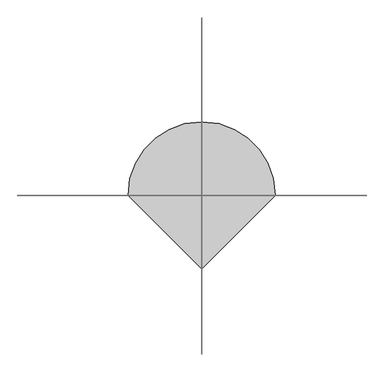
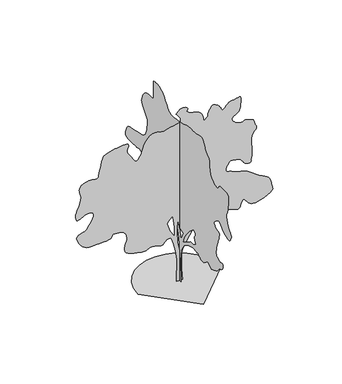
"""IFC4 building model written with IfcOpenShell, lengths in millimetres: geographic element geometry, M_RPC Árbol - Caducifolio : Saúco - 4,5 metros."""

from ifc_helpers import new_model, si_unit, origin, place, context, project, spatial, triangles, source, transform, mapped, element, save


def geographic_element_22c99d3a(model_context):
    return source(origin(), model_context, "Body", "Tessellation", [
        triangles([(-0.0014684, -58.7037978, 0.0041346), (-0.0014684, 62.498052, 0.0041346), (-0.0014684, 15.3641626, 565.6129683), (-0.0014684, 1.8971866, 909.0182064), (-0.0014684, 22.0974929, 1104.2884094), (-0.0014684, 75.9650625, 1326.4911255), (-0.0014684, 224.1009287, 1474.6287403), (-0.0014684, 378.970291, 1474.6287403), (-0.0014684, 412.6378218, 1380.3586224), (-0.0014684, 479.9703761, 1387.0936764), (-0.0014684, 554.0404552, 1474.6287403), (-0.0014684, 601.1729708, 1568.8962421), (-0.0014684, 628.1080273, 1663.1638893), (-0.0014684, 702.1755266, 1636.2313763), (-0.0014684, 782.9756092, 1629.4963223), (-0.0014684, 857.0431812, 1797.8338669), (-0.0014684, 910.9107508, 1898.833952), (-0.0014684, 1059.0483656, 1892.1015141), (-0.0014684, 1173.5159426, 1797.8338669), (-0.0014684, 1382.2535648, 1575.6288254), (-0.0014684, 1388.9861481, 1353.4261093), (-0.0014684, 1386.9236286, 1327.021035), (-0.0014684, 1382.3910564, 1295.553479), (-0.0014684, 1377.8561588, 1261.3760593), (-0.0014684, 1375.7936394, 1226.8434288), (-0.0014684, 1378.6786377, 1194.3159811), (-0.0014684, 1388.9861481, 1166.1458982), (-0.0014684, 1409.1860779, 1144.6884144), (-0.0014684, 1434.4711624, 1129.1809307), (-0.0014684, 1458.931152, 1117.9109064), (-0.0014684, 1483.3911415, 1111.8258854), (-0.0014684, 1508.676226, 1111.8658539), (-0.0014684, 1535.6112099, 1118.9734142), (-0.0014684, 1565.0162464, 1134.0884073), (-0.0014684, 1597.723843, 1158.1559063), (-0.0014684, 1638.2812511, 1183.6959171), (-0.0014684, 1688.0263252, 1202.5209309), (-0.0014684, 1742.9539318, 1214.5159836), (-0.0014684, 1799.0589375, 1219.5610245), (-0.0014684, 1852.3364994, 1217.5409443), (-0.0014684, 1898.783955, 1208.3334394), (-0.0014684, 1934.3939907, 1191.8234734), (-0.0014684, 1963.8416119, 1167.0484594), (-0.0014684, 1995.1715309, 1136.2684341), (-0.0014684, 2029.446619, 1104.1908863), (-0.0014684, 2067.729166, 1075.5283916), (-0.0014684, 2111.0741947, 1054.9958513), (-0.0014684, 2160.5442856, 1047.2983561), (-0.0014684, 2217.1992577, 1057.1533504), (-0.0014684, 2275.1493542, 1083.4008762), (-0.0014684, 2327.094294, 1119.5408941), (-0.0014684, 2371.9694618, 1162.2784018), (-0.0014684, 2408.7193989, 1208.3134552), (-0.0014684, 2436.2819607, 1254.348436), (-0.0014684, 2453.5944214, 1297.0834728), (-0.0014684, 2459.6019035, 1333.2260342), (-0.0014684, 2455.754464, 1372.7236233), (-0.0014684, 2445.3120781, 1424.1161259), (-0.0014684, 2429.919413, 1481.9887562), (-0.0014684, 2411.2318909, 1540.9212055), (-0.0014684, 2390.8944695, 1595.4962173), (-0.0014684, 2370.5569027, 1640.2937737), (-0.0014684, 2351.8669098, 1669.8963272), (-0.0014684, 2330.1568977, 1694.4363991), (-0.0014684, 2300.1992786, 1725.2163517), (-0.0014684, 2262.8217636, 1758.5913494), (-0.0014684, 2218.8493023, 1790.903912), (-0.0014684, 2169.1042282, 1818.5039715), (-0.0014684, 2114.4116364, 1837.74146), (-0.0014684, 2055.5966217, 1844.9664551), (-0.0014684, 1994.4066067, 1849.8740044), (-0.0014684, 1932.1564819, 1863.6164795), (-0.0014684, 1869.0239983, 1884.7189705), (-0.0014684, 1805.1839996, 1911.7115089), (-0.0014684, 1740.8139462, 1943.1215103), (-0.0014684, 1676.0888271, 1977.4765354), (-0.0014684, 1611.1887188, 2013.3016743), (-0.0014684, 1469.786158, 2275.9068661), (-0.0014684, 1685.2562908, 2376.9094219), (-0.0014684, 1714.2713802, 2368.3093655), (-0.0014684, 1744.228854, 2360.0643745), (-0.0014684, 1776.0713871, 2352.5268986), (-0.0014684, 1810.7388931, 2346.049387), (-0.0014684, 1849.1765179, 2340.9844345), (-0.0014684, 1892.3265003, 2337.686816), (-0.0014684, 1941.1290447, 2336.5068008), (-0.0014684, 1996.881601, 2336.291843), (-0.0014684, 2057.3441895, 2336.4293346), (-0.0014684, 2118.1616982, 2338.0968201), (-0.0014684, 2174.9742188, 2342.4769306), (-0.0014684, 2223.421843, 2350.7393623), (-0.0014684, 2259.1517841, 2364.0693626), (-0.0014684, 2277.7993378, 2383.6418598), (-0.0014684, 2281.3742649, 2414.4819832), (-0.0014684, 2275.8767807, 2457.2194908), (-0.0014684, 2262.9592552, 2506.4269524), (-0.0014684, 2244.2692623, 2556.7020813), (-0.0014684, 2221.4593174, 2602.6271851), (-0.0014684, 2196.1742329, 2638.7770134), (-0.0014684, 2170.0641987, 2659.7021896), (-0.0014684, 2143.7191498, 2670.2021301), (-0.0014684, 2115.1367374, 2679.2771576), (-0.0014684, 2082.0791622, 2687.9772079), (-0.0014684, 2042.3065899, 2697.4022141), (-0.0014684, 1993.581657, 2708.6021118), (-0.0014684, 1933.6665642, 2722.6021294), (-0.0014684, 1860.3264187, 2740.5021996), (-0.0014684, 1781.7239491, 2758.3022758), (-0.0014684, 1708.0688519, 2773.1522415), (-0.0014684, 1640.1837513, 2787.8522163), (-0.0014684, 1578.8962132, 2805.302314), (-0.0014684, 1525.0287163, 2828.2773651), (-0.0014684, 1479.4062103, 2859.6021973), (-0.0014684, 1442.8536449, 2902.1272179), (-0.0014684, 1414.8411106, 2953.5272781), (-0.0014684, 1393.5411026, 3009.1773697), (-0.0014684, 1377.8361019, 3068.3775352), (-0.0014684, 1366.6061188, 3130.3775299), (-0.0014684, 1358.7336342, 3194.527684), (-0.0014684, 1353.1011292, 3260.0777527), (-0.0014684, 1348.5861431, 3326.3277786), (-0.0014684, 1398.7811897, 3378.2528069), (-0.0014684, 1447.1536732, 3430.0528427), (-0.0014684, 1491.8711472, 3481.6278923), (-0.0014684, 1531.1136646, 3532.8529633), (-0.0014684, 1563.0537209, 3583.577774), (-0.0014684, 1585.8662819, 3633.7529091), (-0.0014684, 1597.723843, 3683.2030884), (-0.0014684, 1593.7187096, 3737.8779488), (-0.0014684, 1572.2812099, 3799.8529449), (-0.0014684, 1536.5912373, 3863.2281464), (-0.0014684, 1489.8311554, 3922.153038), (-0.0014684, 1435.1786774, 3970.7032722), (-0.0014684, 1375.8135509, 4002.9783371), (-0.0014684, 1314.918576, 4013.128299), (-0.0014684, 1258.4585049, 4010.1031929), (-0.0014684, 1210.3634754, 4007.7533363), (-0.0014684, 1170.7484516, 4007.6533424), (-0.0014684, 1139.7309408, 4011.3281181), (-0.0014684, 1117.4309212, 4020.3031517), (-0.0014684, 1103.9633566, 4036.1033501), (-0.0014684, 1099.4483706, 4060.2783279), (-0.0014684, 1101.1558971, 4105.3531929), (-0.0014684, 1104.8659178, 4175.1532928), (-0.0014684, 1108.4583584, 4258.1534592), (-0.0014684, 1109.8133629, 4342.8035248), (-0.0014684, 1106.8083864, 4417.5536133), (-0.0014684, 1097.3283691, 4470.8785561), (-0.0014684, 1079.2483681, 4491.2034782), (-0.0014684, 1052.7858118, 4492.578685), (-0.0014684, 1020.9033102, 4495.6035004), (-0.0014684, 985.6082989, 4498.6286064), (-0.0014684, 948.8982576, 4500.0035225), (-0.0014684, 912.7757532, 4498.07864), (-0.0014684, 879.2456778, 4491.2034782), (-0.0014684, 850.3106707, 4477.7537178), (-0.0014684, 822.8281912, 4461.7535316), (-0.0014684, 792.8706448, 4447.2035477), (-0.0014684, 761.2631264, 4432.1535942), (-0.0014684, 728.8330564, 4414.7534935), (-0.0014684, 696.4030592, 4393.1286507), (-0.0014684, 664.7980116, 4365.3786003), (-0.0014684, 634.8405378, 4329.6034584), (-0.0014684, 604.8054889, 4286.4284775), (-0.0014684, 572.6504748, 4239.8534134), (-0.0014684, 538.7279451, 4193.0283646), (-0.0014684, 503.3903855, 4149.1534264), (-0.0014684, 466.9953687, 4111.403405), (-0.0014684, 429.8928369, 4082.9533974), (-0.0014684, 392.4378193, 4067.0032082), (-0.0014684, 354.0977903, 4061.0282822), (-0.0014684, 314.1102602, 4059.6533661), (-0.0014684, 272.4727218, 4061.703241), (-0.0014684, 229.185175, 4065.9782707), (-0.0014684, 184.2498909, 4071.3282349), (-0.0014684, 137.6653616, 4076.5532066), (-0.0014684, 89.4320684, 4080.4782578), (-0.0014684, 32.5020268, 4087.803392), (-0.0014684, -35.3820291, 4102.1033913), (-0.0014684, -107.0353362, 4120.403437), (-0.0014684, -175.2726409, 4139.7534187), (-0.0014684, -232.909439, 4157.2282242), (-0.0014684, -272.7602224, 4169.8783241), (-0.0014684, -287.6402371, 4174.7283188), (-0.0014684, -295.8277279, 4177.2784538), (-0.0014684, -318.5002539, 4183.6033585), (-0.0014684, -352.8352947, 4191.7034454), (-0.0014684, -396.002827, 4199.553257), (-0.0014684, -445.1803485, 4205.1534966), (-0.0014684, -497.5354013, 4206.5284126), (-0.0014684, -550.2454471, 4201.678418), (-0.0014684, -608.3329988, 4200.728476), (-0.0014684, -675.2555128, 4211.4534027), (-0.0014684, -745.8280947, 4228.1782539), (-0.0014684, -814.8706827, 4245.2533745), (-0.0014684, -877.2006718, 4257.0285278), (-0.0014684, -927.6307331, 4257.8534775), (-0.0014684, -960.9857466, 4242.0782776), (-0.0014684, -983.9932812, 4214.9534798), (-0.0014684, -1006.5283155, 4185.8032242), (-0.0014684, -1028.123291, 4155.1533508), (-0.0014684, -1048.3033092, 4123.4282524), (-0.0014684, -1066.5983408, 4091.1031906), (-0.0014684, -1082.5408997, 4058.6781349), (-0.0014684, -1095.6533987, 4026.6033485), (-0.0014684, -1111.3183582, 3999.2282753), (-0.0014684, -1133.5808802, 3978.353096), (-0.0014684, -1159.9634268, 3960.5283119), (-0.0014684, -1187.9984161, 3942.3532585), (-0.0014684, -1215.2059851, 3920.4031448), (-0.0014684, -1239.1159355, 3891.2531799), (-0.0014684, -1257.255962, 3851.5279884), (-0.0014684, -1268.2685165, 3817.1530518), (-0.0014684, -1273.6285091, 3800.8031776), (-0.0014684, -1275.1009483, 3794.1030052), (-0.0014684, -1274.4534588, 3788.7030441), (-0.0014684, -1273.451049, 3776.252932), (-0.0014684, -1273.8635239, 3748.3528908), (-0.0014684, -1277.4560371, 3696.6528488), (-0.0014684, -1283.7985279, 3637.6029648), (-0.0014684, -1291.9060272, 3591.1778915), (-0.0014684, -1302.7210648, 3554.2528198), (-0.0014684, -1317.1884956, 3523.8279327), (-0.0014684, -1336.2511402, 3496.8278366), (-0.0014684, -1360.8486214, 3470.1527206), (-0.0014684, -1391.9260849, 3440.8027679), (-0.0014684, -1427.2211689, 3411.5778076), (-0.0014684, -1463.2262386, 3387.677813), (-0.0014684, -1498.9912067, 3369.4027657), (-0.0014684, -1533.5812466, 3357.1526413), (-0.0014684, -1566.0512123, 3351.2777092), (-0.0014684, -1595.4587196, 3352.1026588), (-0.0014684, -1620.8612389, 3360.002758), (-0.0014684, -1639.7087803, 3375.502684), (-0.0014684, -1652.8988182, 3396.6528465), (-0.0014684, -1664.6787678, 3420.0528717), (-0.0014684, -1679.2838356, 3442.2776779), (-0.0014684, -1700.9563499, 3459.9027649), (-0.0014684, -1733.936459, 3469.5277588), (-0.0014684, -1782.4638748, 3467.7278687), (-0.0014684, -1840.5514629, 3464.2277916), (-0.0014684, -1897.5815575, 3466.9779144), (-0.0014684, -1950.8390625, 3469.852739), (-0.0014684, -1997.6215267, 3466.7026405), (-0.0014684, -2035.2141449, 3451.4277008), (-0.0014684, -2060.9117043, 3417.9027122), (-0.0014684, -2072.001725, 3360.002758), (-0.0014684, -2074.396637, 3302.252504), (-0.0014684, -2075.4967152, 3266.6526421), (-0.0014684, -2074.8291687, 3243.2026199), (-0.0014684, -2071.9241135, 3221.8774681), (-0.0014684, -2066.3091946, 3192.6275093), (-0.0014684, -2057.5140919, 3145.5024788), (-0.0014684, -2045.0690666, 3070.4524086), (-0.0014684, -2028.7941879, 2993.7774376), (-0.0014684, -2011.3440903, 2941.8274109), (-0.0014684, -1996.4816254, 2904.7273499), (-0.0014684, -1987.9815628, 2872.5772774), (-0.0014684, -1989.6115505, 2835.4772163), (-0.0014684, -2005.1390911, 2783.5271896), (-0.0014684, -2038.3341579, 2706.8522186), (-0.0014684, -2081.1516026, 2626.4521843), (-0.0014684, -2121.1391327, 2566.6770538), (-0.0014684, -2155.4742462, 2522.5771294), (-0.0014684, -2181.326738, 2489.1794586), (-0.0014684, -2195.8742512, 2461.5570168), (-0.0014684, -2196.286726, 2434.7619953), (-0.0014684, -2179.7367187, 2403.841935), (-0.0014684, -2160.4392048, 2371.8244125), (-0.0014684, -2149.859182, 2345.5768867), (-0.0014684, -2141.0441677, 2325.9269234), (-0.0014684, -2127.0467663, 2313.6968559), (-0.0014684, -2100.919146, 2309.7117794), (-0.0014684, -2055.7091148, 2314.7967888), (-0.0014684, -1984.4665157, 2329.7743629), (-0.0014684, -1906.7289642, 2358.6118469), (-0.0014684, -1844.06651, 2399.6994553), (-0.0014684, -1792.5939251, 2445.4995667), (-0.0014684, -1748.4239468, 2488.4719437), (-0.0014684, -1707.671347, 2521.0769302), (-0.0014684, -1666.4437763, 2535.7769051), (-0.0014684, -1620.8612389, 2525.0519783), (-0.0014684, -1576.9086891, 2499.6619583), (-0.0014684, -1542.1411892, 2475.3396057), (-0.0014684, -1515.031216, 2451.8994667), (-0.0014684, -1494.0461597, 2429.166988), (-0.0014684, -1477.653701, 2406.9644188), (-0.0014684, -1464.3237007, 2385.1144444), (-0.0014684, -1452.526165, 2363.44193), (-0.0014684, -1471.2737125, 2344.7718487), (-0.0014684, -1489.9612347, 2326.634293), (-0.0014684, -1508.5336475, 2309.5543762), (-0.0014684, -1526.9262749, 2294.0668041), (-0.0014684, -1545.0862129, 2280.6968353), (-0.0014684, -1562.9512562, 2269.9793209), (-0.0014684, -1580.4612339, 2262.4393742), (-0.0014684, -1599.1313152, 2259.024321), (-0.0014684, -1619.331245, 2258.1993713), (-0.0014684, -1639.2963055, 2256.7868122), (-0.0014684, -1657.2588718, 2251.6042797), (-0.0014684, -1671.4513195, 2239.4717354), (-0.0014684, -1680.1087852, 2217.2092861), (-0.0014684, -1681.4637897, 2181.6392189), (-0.0014684, -1676.9863014, 2141.9842266), (-0.0014684, -1669.5664055, 2107.6292015), (-0.0014684, -1659.5537899, 2075.6315907), (-0.0014684, -1647.3038109, 2043.0441902), (-0.0014684, -1633.1712433, 2006.9215405), (-0.0014684, -1617.5037403, 1964.3241405), (-0.0014684, -1600.6613091, 1912.3015892), (-0.0014684, -1583.268766, 1853.7415009), (-0.0014684, -1567.0537674, 1795.0639778), (-0.0014684, -1554.0188072, 1738.6264343), (-0.0014684, -1546.1662342, 1686.7788723), (-0.0014684, -1545.4986877, 1641.8837929), (-0.0014684, -1554.0188072, 1606.2938141), (-0.0014684, -1573.728796, 1582.3637341), (-0.0014684, -1599.1112583, 1566.4212479), (-0.0014684, -1623.4337563, 1552.9562267), (-0.0014684, -1646.8737499, 1541.5487835), (-0.0014684, -1669.606374, 1531.7937103), (-0.0014684, -1691.8087978, 1523.2737362), (-0.0014684, -1713.6589176, 1515.5787117), (-0.0014684, -1735.331432, 1508.2936913), (-0.0014684, -1758.2389, 1518.0512352), (-0.0014684, -1780.0888744, 1525.7462597), (-0.0014684, -1799.8189201, 1529.318716), (-0.0014684, -1816.3664566, 1526.7087009), (-0.0014684, -1828.676461, 1515.8536949), (-0.0014684, -1835.6840275, 1494.6911785), (-0.0014684, -1836.331517, 1461.1611031), (-0.0014684, -1830.501495, 1425.4711304), (-0.0014684, -1819.3715057, 1398.2636341), (-0.0014684, -1803.8239082, 1378.1211136), (-0.0014684, -1784.7414974, 1363.6336258), (-0.0014684, -1763.0089577, 1353.3861408), (-0.0014684, -1739.5114094, 1345.9660995), (-0.0014684, -1715.128886, 1339.9586174), (-0.0014684, -1703.5663651, 1332.6360992), (-0.0014684, -1691.8864094, 1324.6660915), (-0.0014684, -1679.9712936, 1315.4011047), (-0.0014684, -1667.701403, 1304.1910332), (-0.0014684, -1654.9613377, 1290.3910034), (-0.0014684, -1641.6313374, 1273.3510551), (-0.0014684, -1627.5962929, 1252.4235535), (-0.0014684, -1608.2588104, 1230.1234612), (-0.0014684, -1580.0887276, 1209.2360006), (-0.0014684, -1544.5563034, 1189.5259392), (-0.0014684, -1503.1336864, 1170.7584074), (-0.0014684, -1457.2962227, 1152.6983906), (-0.0014684, -1408.5135899, 1135.1084032), (-0.0014684, -1358.2585178, 1117.7559013), (-0.0014684, -1196.6559546, 1212.0234758), (-0.0014684, -1035.0533186, 1090.8208448), (-0.0014684, -1013.4382862, 1088.0133854), (-0.0014684, -992.0007866, 1085.6783535), (-0.0014684, -970.9182798, 1084.2833805), (-0.0014684, -950.3632845, 1084.3033648), (-0.0014684, -930.5182749, 1086.2083357), (-0.0014684, -911.5532261, 1090.4683954), (-0.0014684, -893.6506851, 1097.5558989), (-0.0014684, -877.0431959, 1106.938393), (-0.0014684, -861.3756929, 1117.3809242), (-0.0014684, -845.9456755, 1128.295883), (-0.0014684, -830.0456285, 1139.0934071), (-0.0014684, -812.9656391, 1149.1834162), (-0.0014684, -794.0031338, 1157.9784462), (-0.0014684, -772.4481268, 1164.8884169), (-0.0014684, -748.1855816, 1170.2684664), (-0.0014684, -721.8005642, 1174.9409283), (-0.0014684, -693.6505383, 1179.0234552), (-0.0014684, -664.0855551, 1182.6359528), (-0.0014684, -633.4605349, 1185.8934574), (-0.0014684, -602.1304705, 1188.9184181), (-0.0014684, -570.4454495, 1191.8234734), (-0.0014684, -361.7077909, 1131.2209225), (-0.0014684, -186.6391528, 1003.2857809), (-0.0014684, -92.3710696, 848.418199), (-0.0014684, -45.2367873, 552.1454401), (-0.0013758, -65.4370532, 1097.5558989), (-0.0013758, -166.4388778, 1313.0261044), (-0.0013758, -4.8361539, 1380.3586224), (-0.0013882, -307.8402577, 1171.6234709), (-0.0013882, -469.4428937, 1279.3585373), (-0.0013882, -597.3779626, 1286.0909752), (-0.0013882, -705.1130653, 1346.6910553), (-0.0013882, -699.3030275, 1349.8135391), (-0.0013882, -693.2555769, 1354.3485821), (-0.0013882, -686.7405676, 1361.7110687), (-0.0013882, -679.5155725, 1373.3110874), (-0.0013882, -671.3480478, 1390.5686096), (-0.0013882, -662.0055222, 1414.8911076), (-0.0013882, -651.2454958, 1447.6936111), (-0.0013882, -642.6479828, 1480.1036968), (-0.0013882, -639.3505096, 1503.3287327), (-0.0013882, -640.4680286, 1518.8962418), (-0.0013882, -645.1205063, 1528.3386887), (-0.0013882, -652.425511, 1533.1862125), (-0.0013882, -661.4930534, 1534.9737488), (-0.0013882, -671.4480417, 1535.2286751), (-0.0013882, -678.1805523, 1616.0288303), (-0.0013882, -597.3779626, 1669.8963272), (-0.0013882, -422.3103418, 1521.7611832), (-0.0013882, -301.1077472, 1380.3586224), (-0.0013882, -220.3061749, 1265.8910454), (-0.0013882, -139.504866, 1084.0883343), (66.6360534, -0.0002629, 0.0), (-68.0330566, -0.0002629, 0.0), (-61.2998012, -0.0002272, 552.142933), (-94.9670776, -0.0002139, 794.5456152), (-142.1008648, -0.0002005, 996.5483288), (-202.7016535, -0.0001916, 1178.3509672), (-323.9027584, -0.0001916, 1164.8859461), (-344.1627863, -0.0001916, 1136.3209019), (-364.7752999, -0.000196, 1109.5258804), (-386.0952922, -0.000196, 1086.2633469), (-408.4753215, -0.000196, 1068.3008532), (-432.2678372, -0.0002005, 1057.4058786), (-457.8253615, -0.0002005, 1055.3433592), (-485.5053944, -0.000196, 1063.8833176), (-514.9529065, -0.000196, 1076.7408903), (-545.4604194, -0.000196, 1086.7733448), (-576.8504728, -0.000196, 1094.448385), (-608.9454978, -0.000196, 1100.2409094), (-641.5730484, -0.000196, 1104.6184038), (-674.5530121, -0.000196, 1108.0533686), (-707.7105812, -0.000196, 1111.0183765), (-735.2131176, -0.000196, 1095.3133759), (-763.2456362, -0.000196, 1080.6083868), (-792.3406626, -0.000196, 1067.9083626), (-823.0231647, -0.000196, 1058.210844), (-855.8256683, -0.0002005, 1052.5183136), (-891.280699, -0.0002005, 1051.8308556), (-929.9132246, -0.0002005, 1057.1508797), (-979.8558157, -0.000196, 1066.7883728), (-1044.1658438, -0.000196, 1079.0183676), (-1115.7808765, -0.000196, 1094.7833937), (-1187.630924, -0.000196, 1115.0233646), (-1252.6485397, -0.0001916, 1140.6808828), (-1303.7660591, -0.0001916, 1172.6984053), (-1333.9185791, -0.0001871, 1212.0184616), (-1343.6560661, -0.0001871, 1258.8785374), (-1340.9085594, -0.0001827, 1310.6835148), (-1329.6785763, -0.0001782, 1364.141153), (-1313.9735756, -0.0001782, 1415.9461304), (-1297.7985455, -0.0001738, 1462.8062061), (-1285.1560032, -0.0001738, 1501.4186749), (-1280.0510822, -0.0001693, 1528.4911503), (-1282.3885849, -0.0001693, 1551.6362492), (-1288.8460396, -0.0001693, 1579.2562202), (-1298.6035835, -0.0001648, 1609.2337509), (-1310.8335056, -0.0001648, 1639.4462963), (-1324.7136177, -0.0001604, 1667.7737823), (-1339.4160633, -0.0001604, 1692.0964256), (-1354.121125, -0.0001604, 1710.2938614), (-1373.4561367, -0.0001604, 1723.3488785), (-1401.6286903, -0.0001559, 1733.9289013), (-1437.1586437, -0.0001559, 1742.4488754), (-1478.5811153, -0.0001559, 1749.3189503), (-1524.4187244, -0.0001559, 1754.9539261), (-1573.2012119, -0.0001559, 1759.7639523), (-1623.456284, -0.0001559, 1764.1613583), (-1631.2713593, -0.0001559, 1738.3664211), (-1642.6763317, -0.0001604, 1713.631303), (-1661.2663307, -0.0001604, 1691.0164043), (-1690.6363403, -0.0001604, 1671.5813988), (-1734.3739323, -0.0001604, 1656.386396), (-1796.0739452, -0.0001648, 1646.4938313), (-1879.3290379, -0.0001648, 1642.9588726), (-1971.5741341, -0.0001648, 1640.6613384), (-2057.4616241, -0.0001648, 1636.1262955), (-2136.396777, -0.0001648, 1632.8888477), (-2207.7943085, -0.0001648, 1634.478867), (-2271.0667545, -0.0001648, 1644.4313118), (-2325.619384, -0.0001604, 1666.2812862), (-2370.8693836, -0.0001604, 1703.5614235), (-2411.8019142, -0.0001559, 1752.5588688), (-2450.9643494, -0.0001559, 1805.3264328), (-2484.1219185, -0.0001515, 1859.0389973), (-2507.0269157, -0.000147, 1910.8640316), (-2515.4519829, -0.0001426, 1957.9790337), (-2505.1520302, -0.0001426, 1997.554089), (-2471.8720848, -0.0001426, 2026.7640793), (-2428.4668854, -0.0001381, 2045.1190636), (-2390.1269291, -0.0001381, 2056.5266521), (-2356.1468811, -0.0001381, 2064.7515862), (-2325.816901, -0.0001381, 2073.5666004), (-2298.4317993, -0.0001381, 2086.7391975), (-2273.2843517, -0.0001337, 2108.0367348), (-2249.6667526, -0.0001337, 2141.2342724), (-2221.7142437, -0.0001292, 2184.9518074), (-2187.6342018, -0.0001292, 2233.7342949), (-2152.8467903, -0.0001247, 2285.2267914), (-2122.7717365, -0.0001203, 2337.0718826), (-2102.826733, -0.0001203, 2386.9169506), (-2098.4291817, -0.0001158, 2432.401965), (-2114.9992458, -0.0001158, 2471.1718369), (-2145.426749, -0.0001114, 2498.537027), (-2178.6816959, -0.0001114, 2512.8271431), (-2214.2917316, -0.0001114, 2516.2269356), (-2251.7868267, -0.0001114, 2510.9019699), (-2290.6968063, -0.0001114, 2499.0494957), (-2330.5468449, -0.0001114, 2482.831881), (-2370.8693836, -0.0001158, 2464.439399), (-2399.569376, -0.0001158, 2448.8118645), (-2427.3294548, -0.0001158, 2434.6593853), (-2453.2020035, -0.0001158, 2423.4494591), (-2476.2471085, -0.0001158, 2416.6569958), (-2495.5270363, -0.0001158, 2415.7544346), (-2510.1020187, -0.0001158, 2422.2118893), (-2519.0020569, -0.0001158, 2437.5044151), (-2525.7269371, -0.0001158, 2456.4494797), (-2533.1520653, -0.0001158, 2474.4518692), (-2539.5019684, -0.0001114, 2493.8669632), (-2543.0270439, -0.0001114, 2517.0518852), (-2541.977108, -0.0001114, 2546.3521317), (-2534.5519798, -0.0001069, 2584.15215), (-2519.0020569, -0.0001025, 2632.7770889), (-2498.1969315, -0.0001025, 2684.6521202), (-2477.0345604, -9.8e-05, 2732.0771324), (-2456.8145737, -9.8e-05, 2777.1272896), (-2438.8319504, -9.36e-05, 2821.9271713), (-2424.3844311, -8.91e-05, 2868.6522263), (-2414.7643787, -8.91e-05, 2919.3523293), (-2411.2693886, -8.47e-05, 2976.1773491), (-2415.2169674, -8.02e-05, 3030.6775108), (-2424.696912, -8.02e-05, 3074.9274261), (-2436.1819668, -7.57e-05, 3111.8774963), (-2446.1344116, -7.57e-05, 3144.4525429), (-2451.0245201, -7.13e-05, 3175.6276749), (-2447.311956, -7.13e-05, 3208.3274231), (-2431.4719345, -6.68e-05, 3245.527478), (-2401.6519524, -6.68e-05, 3281.1526291), (-2361.1144558, -6.24e-05, 3307.9527374), (-2313.9793968, -6.24e-05, 3326.977739), (-2264.3718143, -6.24e-05, 3339.2775696), (-2216.4142765, -6.24e-05, 3345.9277451), (-2174.2267353, -6.24e-05, 3348.0026184), (-2141.9342297, -6.24e-05, 3346.5277084), (-2114.2341763, -6.24e-05, 3341.002755), (-2084.4141941, -6.24e-05, 3332.902668), (-2054.4766319, -6.24e-05, 3326.2027863), (-2026.4241291, -6.24e-05, 3324.9275734), (-2002.2565636, -6.24e-05, 3333.0776573), (-1983.9815163, -6.24e-05, 3354.6527939), (-1973.5965397, -5.79e-05, 3393.652739), (-1964.8216393, -5.35e-05, 3450.0277863), (-1951.2165104, -5.35e-05, 3517.3777451), (-1934.5515392, -4.9e-05, 3590.1279556), (-1916.5889729, -4.46e-05, 3662.7528831), (-1899.0965813, -4.01e-05, 3729.7278648), (-1883.8440239, -3.56e-05, 3785.5279472), (-1872.5939838, -3.12e-05, 3824.6031784), (-1852.5114887, -3.12e-05, 3852.8781967), (-1813.3489082, -3.12e-05, 3879.4030312), (-1760.7564789, -2.67e-05, 3903.2280304), (-1700.3914135, -2.67e-05, 3923.3782539), (-1637.906274, -2.67e-05, 3938.9531754), (-1578.9537678, -2.67e-05, 3948.9781448), (-1529.1887821, -2.67e-05, 3952.5282188), (-1482.7811497, -2.67e-05, 3955.978299), (-1432.4861092, -2.67e-05, 3963.6781197), (-1381.8386192, -2.67e-05, 3971.6032173), (-1334.3710224, -2.23e-05, 3975.7782532), (-1293.6160973, -2.67e-05, 3972.1531837), (-1263.1109825, -2.67e-05, 3956.7782501), (-1246.3835152, -2.67e-05, 3925.6031181), (-1245.9735111, -3.12e-05, 3891.2531799), (-1257.1035004, -3.12e-05, 3865.2780212), (-1272.3560577, -3.12e-05, 3842.0279869), (-1284.3134674, -3.56e-05, 3815.8281326), (-1285.5485664, -3.56e-05, 3781.0029327), (-1268.6459644, -4.01e-05, 3731.9530197), (-1226.1859108, -4.46e-05, 3663.0028679), (-1175.7534513, -4.9e-05, 3589.303006), (-1137.6884056, -4.9e-05, 3530.2028343), (-1108.6933731, -5.35e-05, 3486.3028976), (-1085.4708807, -5.35e-05, 3458.2028687), (-1064.7208391, -5.79e-05, 3446.4527138), (-1043.1458479, -5.35e-05, 3451.6776855), (-1017.4482885, -5.35e-05, 3474.4527489), (-990.2407923, -5.35e-05, 3507.3527756), (-966.3282984, -4.9e-05, 3542.2529709), (-945.7157484, -4.9e-05, 3578.7027809), (-928.403215, -4.46e-05, 3616.2028175), (-914.3857567, -4.46e-05, 3654.2778191), (-903.6682423, -4.01e-05, 3692.477813), (-896.2457302, -4.01e-05, 3730.3281189), (-882.6607309, -3.56e-05, 3773.9530724), (-855.1781788, -3.12e-05, 3826.1530838), (-816.3881773, -3.12e-05, 3881.5531906), (-768.880612, -2.67e-05, 3934.7281425), (-715.2480572, -2.23e-05, 3980.2282722), (-658.0830145, -2.23e-05, 4012.6533279), (-599.9754785, -2.23e-05, 4026.6033485), (-552.8204352, -2.23e-05, 4024.7781693), (-521.215424, -2.23e-05, 4016.1031174), (-496.7928958, -2.23e-05, 4004.503244), (-471.1953667, -2.23e-05, 3993.8533127), (-436.0553604, -2.23e-05, 3988.0280869), (-383.0128132, -2.23e-05, 3990.9032021), (-303.7027378, -2.23e-05, 4006.4031281), (-214.7551692, -2.23e-05, 4026.5783501), (-138.763614, -2.23e-05, 4042.5282486), (-76.3173075, -1.78e-05, 4056.5782631), (-28.0055217, -1.78e-05, 4071.1032486), (5.5830293, -1.78e-05, 4088.4533524), (23.8594698, -1.78e-05, 4110.9784309), (26.2347699, -1.34e-05, 4141.0533394), (18.3040142, -1.34e-05, 4173.7283798), (6.4862053, -8.9e-06, 4202.8533463), (-8.5707069, -8.9e-06, 4229.0534912), (-26.219021, -8.9e-06, 4252.8784904), (-45.810535, -4.5e-06, 4274.9533058), (-66.6978047, -4.5e-06, 4295.8284851), (-88.2330682, -4.5e-06, 4316.1284088), (-60.8870493, -4.5e-06, 4341.9035797), (-33.9532782, 0.0, 4366.5035316), (-7.8441564, 0.0, 4388.753627), (17.0283131, 0.0, 4407.4536484), (40.2517809, 0.0, 4421.4536659), (61.4140475, 4.5e-06, 4429.5534622), (80.1028141, 4.5e-06, 4430.6036888), (99.5373291, 4.5e-06, 4426.853627), (121.7990971, 0.0, 4421.2286797), (144.7671174, 0.0, 4413.4535728), (166.3221335, 0.0, 4403.3536079), (184.343399, 0.0, 4390.653511), (196.7109036, 0.0, 4375.1285866), (201.3046639, 0.0, 4356.5285591), (197.1231604, -4.5e-06, 4339.6534264), (187.641399, -4.5e-06, 4327.8285667), (177.4531401, -4.5e-06, 4318.7285408), (171.1516352, -4.5e-06, 4309.9784935), (173.3306447, -4.5e-06, 4299.2035698), (188.5838924, -4.5e-06, 4284.1033287), (221.5051751, -8.9e-06, 4262.2784981), (265.7927153, -8.9e-06, 4240.0534012), (311.140238, -8.9e-06, 4223.8285194), (356.135275, -8.9e-06, 4211.3784073), (399.3628326, -8.9e-06, 4200.4784912), (439.4103518, -1.34e-05, 4188.8533287), (474.8628754, -1.34e-05, 4174.2783463), (504.3103875, -1.34e-05, 4154.528389), (527.7304333, -1.34e-05, 4129.0781982), (546.555447, -1.78e-05, 4099.4032654), (561.5529327, -1.78e-05, 4066.203257), (573.4879601, -2.23e-05, 4030.1531319), (583.1279603, -2.23e-05, 3991.9781364), (591.2354596, -2.67e-05, 3952.4032265), (598.577962, -2.67e-05, 3912.1280685), (692.8455729, -2.23e-05, 3999.6532494), (692.2180676, -2.23e-05, 4003.2033234), (691.118062, -2.23e-05, 4013.1033005), (690.7255714, -2.23e-05, 4028.2782463), (692.2180676, -2.23e-05, 4047.7282219), (696.7730221, -1.78e-05, 4070.3282959), (705.5680521, -1.78e-05, 4095.0782387), (719.7805567, -1.78e-05, 4120.8534096), (736.0730942, -1.34e-05, 4147.7032242), (751.1906307, -1.34e-05, 4174.7783157), (766.4231312, -8.9e-06, 4199.8282402), (783.0706615, -8.9e-06, 4220.678421), (802.4256575, -8.9e-06, 4235.0284172), (825.7856415, -8.9e-06, 4240.6533646), (854.4482088, -8.9e-06, 4235.3283989), (884.2282225, -8.9e-06, 4222.4283142), (910.4757483, -8.9e-06, 4207.0283821), (933.7782503, -1.34e-05, 4189.5782845), (954.7232655, -1.34e-05, 4170.4782875), (973.9032721, -1.34e-05, 4150.1283669), (991.9032635, -1.34e-05, 4128.9782043), (1009.3183342, -1.78e-05, 4107.4033585), (1013.7732948, -1.78e-05, 4086.0282097), (1018.9957958, -1.78e-05, 4066.2282555), (1025.7482906, -1.78e-05, 4049.6281059), (1034.7983196, -2.23e-05, 4037.7782478), (1046.910807, -2.23e-05, 4032.3032913), (1062.8508224, -2.23e-05, 4034.7781403), (1083.3858335, -2.23e-05, 4046.8032784), (1105.9033545, -1.78e-05, 4067.7281639), (1128.3008972, -1.78e-05, 4093.828315), (1152.1133972, -1.78e-05, 4122.0533363), (1178.8709209, -1.34e-05, 4149.3534142), (1210.1034622, -1.34e-05, 4172.628447), (1247.3434856, -1.34e-05, 4188.8533287), (1292.120985, -1.34e-05, 4194.9282486), (1340.4335884, -8.9e-06, 4200.0782249), (1385.9186028, -8.9e-06, 4211.3534088), (1426.5736794, -8.9e-06, 4222.5033096), (1460.3986496, -8.9e-06, 4227.2783089), (1485.388694, -8.9e-06, 4219.4784943), (1499.543644, -1.34e-05, 4192.8033783), (1500.85868, -1.34e-05, 4141.0533394), (1496.0287422, -1.78e-05, 4077.628141), (1491.9061741, -2.23e-05, 4020.1781593), (1486.7236416, -2.67e-05, 3968.9780869), (1478.7161362, -2.67e-05, 3924.2532005), (1466.111237, -3.12e-05, 3886.2531944), (1447.1485863, -3.12e-05, 3855.2030548), (1420.05867, -3.12e-05, 3831.3280586), (1386.1536175, -3.56e-05, 3811.7280922), (1350.8386219, -3.56e-05, 3792.5031029), (1318.4660339, -3.56e-05, 3772.3278809), (1293.3985233, -3.56e-05, 3749.9030869), (1279.9910568, -4.01e-05, 3723.9529266), (1282.6010719, -4.01e-05, 3693.1530624), (1305.5884769, -4.46e-05, 3656.2529892), (1339.7660419, -4.46e-05, 3620.9528183), (1372.8836426, -4.9e-05, 3594.8529579), (1404.7061188, -4.9e-05, 3576.4029213), (1434.9961304, -4.9e-05, 3564.0778015), (1463.5211334, -4.9e-05, 3556.3279839), (1490.0411716, -4.9e-05, 3551.6529785), (1514.3261719, -4.9e-05, 3548.5278786), (1534.9186649, -4.9e-05, 3550.0027885), (1552.0962502, -4.9e-05, 3557.8278923), (1568.2112549, -4.9e-05, 3568.4778236), (1585.6263256, -4.9e-05, 3578.4527962), (1606.6888481, -4.9e-05, 3584.152739), (1633.7613235, -4.9e-05, 3582.1028641), (1669.1938992, -4.9e-05, 3568.7278084), (1706.7689312, -4.9e-05, 3552.8279068), (1738.9239452, -4.9e-05, 3542.9279297), (1766.0138615, -4.9e-05, 3535.1528229), (1788.3938908, -4.9e-05, 3525.6028244), (1806.4140118, -5.35e-05, 3510.4278786), (1820.4314701, -5.35e-05, 3485.6776451), (1830.7965351, -5.79e-05, 3447.5276482), (1843.1639488, -5.79e-05, 3405.1526184), (1859.6539307, -6.24e-05, 3369.1527809), (1875.3189629, -6.24e-05, 3337.6276703), (1885.2139984, -6.24e-05, 3308.7026917), (1884.3890488, -6.68e-05, 3280.4526718), (1867.8990669, -6.68e-05, 3251.0527222), (1830.7965351, -7.13e-05, 3218.5776695), (1790.6914249, -7.13e-05, 3174.2274696), (1766.368927, -7.57e-05, 3114.4526299), (1754.6488575, -8.02e-05, 3045.2524933), (1752.3514687, -8.47e-05, 2972.6522736), (1756.2964314, -8.91e-05, 2902.6271873), (1763.3064686, -9.36e-05, 2841.2021576), (1770.196455, -9.36e-05, 2794.3771088), (1774.2014431, -9.8e-05, 2756.2771088), (1775.0263927, -9.8e-05, 2717.1021744), (1773.198888, -0.0001025, 2677.0520027), (1769.2539253, -0.0001025, 2636.3021645), (1763.7189434, -0.0001069, 2595.0270676), (1757.121381, -0.0001069, 2553.3769936), (1749.9963799, -0.0001114, 2511.5769287), (1751.0764011, -0.0001114, 2490.1945129), (1749.9764683, -0.0001158, 2470.407058), (1744.5189526, -0.0001158, 2453.7993507), (1732.5238998, -0.0001158, 2441.9619919), (1711.8138268, -0.0001158, 2436.4844193), (1680.2063084, -0.0001158, 2438.9569427), (1635.5263321, -0.0001158, 2450.971907), (1592.8687614, -0.0001158, 2472.329615), (1564.6988239, -0.0001114, 2499.8145653), (1544.8911667, -0.0001114, 2530.4769379), (1527.3211636, -0.0001069, 2561.3770866), (1505.8637524, -0.0001069, 2589.5771095), (1474.3961964, -0.0001069, 2612.1021881), (1426.7911079, -0.0001069, 2626.0522087), (1373.8061153, -0.0001025, 2635.8521919), (1329.4210339, -0.0001025, 2646.0271523), (1292.338559, -0.0001025, 2653.6019806), (1261.2609501, -0.0001025, 2655.6521461), (1234.8984604, -0.0001025, 2649.2022491), (1211.9484804, -0.0001025, 2631.3521759), (1191.1209726, -0.0001069, 2599.1021095), (1170.9584679, -0.0001069, 2559.6521919), (1152.6834206, -0.0001114, 2522.5521309), (1139.0008982, -0.0001114, 2488.5071159), (1132.6209097, -0.0001158, 2458.2345451), (1136.2509207, -0.0001158, 2432.4394627), (1152.6034109, -0.0001158, 2411.8269127), (1184.3859186, -0.0001203, 2397.1044102), (1219.3110397, -0.0001203, 2386.6219105), (1246.1060612, -0.0001203, 2377.5519699), (1269.016, -0.0001203, 2368.8369495), (1292.2785336, -0.0001203, 2359.4119434), (1320.1359901, -0.0001203, 2348.2243996), (1356.8260471, -0.0001203, 2334.2067959), (1406.5911781, -0.0001247, 2316.3044003), (1459.7311031, -0.0001247, 2299.7343361), (1505.2162628, -0.0001247, 2288.4668552), (1545.2837299, -0.0001247, 2279.5543179), (1582.1713039, -0.0001247, 2270.0518456), (1618.1137321, -0.0001247, 2257.01674), (1655.3537556, -0.0001292, 2237.5042683), (1696.128883, -0.0001292, 2208.5692612), (1938.5315289, -0.0001381, 2040.2315712), (1981.0741356, -0.0001426, 2013.7116783), (2030.6815727, -0.0001426, 1989.6615475), (2082.8791134, -0.0001426, 1964.7890831), (2133.1942108, -0.000147, 1935.7940506), (2177.1467606, -0.000147, 1899.3789768), (2210.2642159, -0.0001515, 1852.246534), (2228.0692337, -0.0001559, 1791.0938713), (2241.2617424, -0.0001604, 1726.50886), (2258.5768192, -0.0001604, 1670.1688396), (2272.5942776, -0.0001648, 1620.4237656), (2275.8917507, -0.0001693, 1575.6237385), (2261.0493427, -0.0001693, 1534.1236553), (2220.6493378, -0.0001738, 1494.2737621), (2147.2692238, -0.0001738, 1454.4237236), (2059.4391197, -0.0001782, 1418.5387047), (1980.5615215, -0.0001782, 1391.6035755), (1910.5189945, -0.0001782, 1373.5036629), (1849.1914879, -0.0001782, 1364.121096), (1796.4614216, -0.0001782, 1363.3361149), (1752.2138317, -0.0001782, 1371.0311394), (1716.3288128, -0.0001782, 1387.0885895), (1685.0163345, -0.0001782, 1414.9836891), (1654.6488567, -0.0001738, 1452.773679), (1625.3388725, -0.0001738, 1492.2137135), (1597.2087582, -0.0001693, 1525.0561855), (1570.3712975, -0.0001693, 1543.0562496), (1544.9487213, -0.0001693, 1537.973711), (1521.0587551, -0.0001738, 1501.5561665), (1500.85868, -0.0001738, 1451.6536892), (1484.7811729, -0.0001782, 1411.5286674), (1470.3512398, -0.0001782, 1381.0610504), (1455.0986824, -0.0001782, 1360.1360195), (1436.5486519, -0.0001827, 1348.6310532), (1412.2236832, -0.0001827, 1346.4335129), (1379.656049, -0.0001827, 1353.4210224), (1340.768597, -0.0001782, 1366.1410309), (1299.4060055, -0.0001782, 1380.9835842), (1255.9810398, -0.0001782, 1397.5911461), (1210.9085003, -0.0001782, 1415.6111217), (1164.5984636, -0.0001738, 1434.6936779), (1117.4658754, -0.0001738, 1454.4811329), (1069.9183416, -0.0001738, 1474.6236534), (746.7130697, -0.0001648, 1609.2913055), (558.1779571, -0.0001693, 1528.4911503), (416.7753236, -0.0001827, 1339.9535305), (241.7051957, -0.000196, 1084.0833927), (73.3693089, -0.0002139, 787.8131046), (46.4355377, -0.0002183, 686.8105488), (46.4355377, -0.0002272, 558.8754436), (46.4355377, -0.000245, 289.537723), (-0.6985081, -8.02e-05, 760.8781208), (66.6360534, -6.68e-05, 949.4157406), (120.5033459, -5.79e-05, 1070.6158281), (140.7033666, -5.35e-05, 1178.3509672), (120.5033459, -4.46e-05, 1299.5535255), (59.9020486, -4.46e-05, 1326.4885094), (49.8315377, -4.46e-05, 1318.123613), (39.937783, -4.46e-05, 1311.5285213), (30.397025, -4.46e-05, 1308.4660629), (21.3865171, -4.46e-05, 1310.7035717), (13.0826351, -4.46e-05, 1320.008527), (5.6620545, -4.46e-05, 1338.1485535), (-0.6985081, -4.01e-05, 1366.8886597), (-6.8627806, -4.01e-05, 1401.5160519), (-13.7337354, -4.01e-05, 1436.1462055), (-21.1935919, -3.56e-05, 1470.7762138), (-29.1245236, -3.56e-05, 1505.4037514), (-37.408779, -3.12e-05, 1540.0337597), (-45.9287872, -3.12e-05, 1574.663768), (-54.5662914, -2.67e-05, 1609.2913055), (-61.2998012, -4.9e-05, 1279.3535957), (-54.5662914, -6.24e-05, 1003.2833101), (-128.634354, -8.47e-05, 1185.0859486), (-121.9003446, -7.13e-05, 1420.7561565), (-142.1008648, -6.24e-05, 1609.2913055), (-175.7681412, -5.35e-05, 1717.0264446), (-243.102694, -5.79e-05, 1649.6913105), (-310.4377373, -6.24e-05, 1575.6237385), (-236.368948, -7.57e-05, 1353.4210224), (-1016.5758127, 0.0, 0.0044197), (-989.7007816, 232.9319304, 0.0044197), (-913.1607588, 446.842856, 0.0044197), (-793.0856026, 635.6029913, 0.0044197), (-635.6029913, 793.0856026, 0.0044197), (-446.842856, 913.1607588, 0.0044197), (-232.9319304, 989.7007816, 0.0044197), (4.44e-05, 1016.5758127, 0.0044197), (232.9319304, 989.7007816, 0.0044197), (446.842856, 913.1607588, 0.0044197), (635.6029913, 793.0856026, 0.0044197), (793.0856026, 635.6029913, 0.0044197), (913.1607588, 446.842856, 0.0044197), (989.7007816, 232.9319304, 0.0044197), (1016.5758127, -8.91e-05, 0.0044197), (-0.0001333, -1016.5758127, 0.0044197)], [[1, 379, 382], [404, 380, 405], [382, 379, 380], [379, 378, 380], [380, 404, 381], [405, 380, 406], [378, 377, 380], [380, 377, 406], [377, 376, 406], [406, 376, 383], [383, 376, 384], [376, 375, 384], [384, 375, 385], [375, 374, 385], [2, 1, 3], [374, 373, 385], [385, 373, 386], [373, 372, 386], [372, 371, 386], [371, 370, 386], [9, 8, 10], [10, 8, 11], [370, 369, 386], [15, 14, 16], [14, 13, 16], [369, 368, 386], [11, 8, 12], [368, 367, 386], [12, 8, 13], [352, 351, 353], [381, 404, 382], [404, 403, 382], [149, 148, 150], [148, 147, 150], [150, 147, 151], [147, 146, 151], [151, 146, 152], [152, 146, 153], [153, 146, 154], [146, 145, 154], [154, 145, 155], [155, 145, 156], [156, 145, 157], [157, 145, 158], [145, 144, 158], [158, 144, 159], [159, 144, 160], [160, 144, 161], [161, 144, 162], [162, 144, 163], [144, 143, 163], [163, 143, 164], [164, 143, 165], [143, 142, 165], [165, 142, 166], [142, 141, 166], [166, 141, 167], [167, 141, 168], [168, 141, 169], [141, 140, 169], [367, 366, 386], [351, 350, 353], [8, 7, 13], [93, 92, 94], [92, 91, 94], [94, 91, 95], [91, 90, 95], [95, 90, 96], [90, 89, 96], [96, 89, 97], [89, 88, 97], [97, 88, 98], [98, 88, 99], [99, 88, 100], [100, 88, 101], [101, 88, 102], [102, 88, 103], [88, 87, 103], [103, 87, 104], [104, 87, 105], [87, 86, 105], [105, 86, 106], [86, 85, 106], [85, 84, 106], [106, 84, 107], [84, 83, 107], [83, 82, 107], [82, 81, 107], [107, 81, 108], [81, 80, 108], [80, 79, 108], [108, 79, 109], [109, 79, 110], [79, 78, 110], [110, 78, 111], [111, 78, 112], [112, 78, 113], [113, 78, 114], [350, 349, 353], [272, 271, 273], [271, 270, 273], [273, 270, 274], [270, 269, 274], [274, 269, 275], [269, 268, 275], [275, 268, 276], [268, 267, 276], [267, 266, 276], [266, 265, 276], [265, 264, 276], [264, 263, 276], [263, 262, 276], [276, 262, 277], [277, 262, 278], [262, 261, 278], [278, 261, 279], [261, 260, 279], [279, 260, 280], [260, 259, 280], [280, 259, 281], [259, 258, 281], [281, 258, 282], [328, 327, 329], [329, 327, 330], [327, 326, 330], [330, 326, 331], [326, 325, 331], [331, 325, 332], [325, 324, 332], [332, 324, 333], [333, 324, 334], [334, 324, 335], [335, 324, 336], [336, 324, 337], [337, 324, 338], [324, 323, 338], [323, 322, 338], [338, 322, 339], [322, 321, 339], [339, 321, 340], [321, 320, 340], [340, 320, 341], [341, 320, 342], [320, 319, 342], [342, 319, 343], [319, 318, 343], [343, 318, 344], [318, 317, 344], [344, 317, 345], [345, 317, 346], [346, 317, 347], [347, 317, 348], [348, 317, 349], [349, 317, 353], [317, 316, 353], [316, 315, 353], [315, 314, 353], [258, 257, 282], [16, 13, 17], [366, 365, 386], [245, 244, 246], [246, 244, 247], [244, 243, 247], [247, 243, 248], [243, 242, 248], [242, 241, 248], [248, 241, 249], [249, 241, 250], [250, 241, 251], [251, 241, 252], [252, 241, 253], [241, 240, 253], [253, 240, 254], [240, 239, 254], [239, 238, 254], [238, 237, 254], [237, 236, 254], [236, 235, 254], [235, 234, 254], [234, 233, 254], [254, 233, 255], [255, 233, 256], [256, 233, 257], [257, 233, 282], [233, 232, 282], [232, 231, 282], [231, 230, 282], [282, 230, 283], [230, 229, 283], [283, 229, 284], [229, 228, 284], [284, 228, 285], [228, 227, 285], [285, 227, 286], [227, 226, 286], [286, 226, 287], [226, 225, 287], [287, 225, 288], [225, 224, 288], [288, 224, 289], [397, 396, 398], [398, 396, 399], [396, 395, 399], [399, 395, 400], [395, 394, 400], [394, 393, 400], [393, 392, 400], [354, 353, 355], [224, 223, 289], [169, 140, 170], [301, 300, 302], [300, 299, 302], [302, 299, 303], [299, 298, 303], [298, 297, 303], [303, 297, 304], [297, 296, 304], [304, 296, 305], [305, 296, 306], [296, 295, 306], [306, 295, 307], [307, 295, 308], [295, 294, 308], [308, 294, 309], [294, 293, 309], [293, 292, 309], [309, 292, 310], [292, 291, 310], [310, 291, 311], [291, 290, 311], [290, 289, 311], [311, 289, 312], [355, 353, 356], [356, 353, 357], [357, 353, 358], [358, 353, 359], [359, 353, 360], [360, 353, 361], [361, 353, 362], [362, 353, 363], [363, 353, 364], [364, 353, 365], [365, 353, 386], [353, 314, 386], [314, 313, 386], [386, 313, 387], [387, 313, 388], [388, 313, 389], [389, 313, 390], [390, 313, 391], [391, 313, 392], [392, 313, 400], [400, 313, 401], [313, 312, 401], [312, 289, 401], [401, 289, 402], [289, 223, 402], [223, 222, 402], [222, 221, 402], [402, 221, 403], [403, 221, 382], [221, 220, 382], [220, 219, 382], [219, 218, 382], [218, 217, 382], [197, 196, 198], [198, 196, 199], [196, 195, 199], [199, 195, 200], [200, 195, 201], [195, 194, 201], [201, 194, 202], [202, 194, 203], [203, 194, 204], [204, 194, 205], [194, 193, 205], [205, 193, 206], [193, 192, 206], [114, 78, 115], [217, 216, 382], [27, 26, 28], [28, 26, 29], [26, 25, 29], [25, 24, 29], [29, 24, 30], [30, 24, 31], [31, 24, 32], [32, 24, 33], [33, 24, 34], [34, 24, 35], [24, 23, 35], [23, 22, 35], [35, 22, 36], [22, 21, 36], [36, 21, 37], [21, 20, 37], [37, 20, 38], [38, 20, 39], [39, 20, 40], [40, 20, 41], [206, 192, 207], [192, 191, 207], [216, 215, 382], [215, 214, 382], [214, 213, 382], [213, 212, 382], [212, 211, 382], [211, 210, 382], [210, 209, 382], [209, 208, 382], [208, 207, 382], [207, 191, 382], [191, 190, 382], [190, 189, 382], [189, 188, 382], [188, 187, 382], [187, 186, 382], [186, 185, 382], [185, 184, 382], [184, 183, 382], [183, 182, 382], [182, 181, 382], [181, 180, 382], [180, 179, 382], [179, 178, 382], [178, 177, 382], [177, 176, 382], [176, 175, 382], [175, 174, 382], [174, 173, 382], [173, 172, 382], [172, 171, 382], [171, 170, 382], [170, 140, 382], [140, 139, 382], [139, 138, 382], [138, 137, 382], [137, 136, 382], [136, 135, 382], [135, 134, 382], [134, 133, 382], [133, 132, 382], [132, 131, 382], [131, 130, 382], [130, 129, 382], [48, 47, 49], [47, 46, 49], [49, 46, 50], [46, 45, 50], [50, 45, 51], [45, 44, 51], [51, 44, 52], [44, 43, 52], [52, 43, 53], [53, 43, 54], [54, 43, 55], [55, 43, 56], [56, 43, 57], [57, 43, 58], [58, 43, 59], [43, 42, 59], [59, 42, 60], [60, 42, 61], [61, 42, 62], [62, 42, 63], [63, 42, 64], [64, 42, 65], [65, 42, 66], [42, 41, 66], [41, 20, 66], [66, 20, 67], [67, 20, 68], [68, 20, 69], [69, 20, 70], [70, 20, 71], [71, 20, 72], [72, 20, 73], [73, 20, 74], [74, 20, 75], [75, 20, 76], [20, 19, 76], [76, 19, 77], [77, 19, 78], [19, 18, 78], [78, 18, 115], [18, 17, 115], [115, 17, 116], [116, 17, 117], [117, 17, 118], [17, 13, 118], [13, 7, 118], [118, 7, 119], [119, 7, 120], [120, 7, 121], [128, 127, 129], [127, 126, 129], [126, 125, 129], [125, 124, 129], [124, 123, 129], [123, 122, 129], [122, 121, 129], [129, 121, 382], [121, 7, 382], [7, 6, 382], [6, 5, 382], [5, 4, 382], [382, 4, 1], [1, 4, 3], [407, 843, 844], [843, 842, 844], [866, 863, 867], [863, 866, 864], [842, 841, 844], [867, 863, 868], [864, 866, 865], [841, 840, 844], [844, 840, 845], [840, 839, 845], [845, 839, 846], [846, 839, 847], [839, 838, 847], [847, 838, 848], [407, 844, 408], [408, 844, 409], [409, 844, 410], [844, 865, 410], [410, 865, 411], [865, 866, 411], [411, 866, 412], [866, 872, 412], [412, 872, 413], [616, 615, 617], [868, 863, 869], [615, 614, 617], [617, 614, 618], [614, 613, 618], [618, 613, 619], [838, 837, 848], [848, 837, 849], [619, 613, 620], [613, 612, 620], [620, 612, 621], [621, 612, 622], [622, 612, 623], [623, 612, 624], [624, 612, 625], [625, 612, 626], [626, 612, 627], [627, 612, 628], [628, 612, 629], [629, 612, 630], [630, 612, 631], [631, 612, 632], [632, 612, 633], [633, 612, 634], [634, 612, 635], [612, 611, 635], [611, 610, 635], [635, 610, 636], [610, 609, 636], [636, 609, 637], [637, 609, 638], [609, 608, 638], [638, 608, 639], [692, 691, 693], [691, 690, 693], [693, 690, 694], [690, 689, 694], [694, 689, 695], [689, 688, 695], [695, 688, 696], [688, 687, 696], [696, 687, 697], [687, 686, 697], [686, 685, 697], [685, 684, 697], [684, 683, 697], [697, 683, 698], [683, 682, 698], [698, 682, 699], [699, 682, 700], [700, 682, 701], [701, 682, 702], [702, 682, 703], [682, 681, 703], [703, 681, 704], [681, 680, 704], [704, 680, 705], [680, 679, 705], [705, 679, 706], [679, 678, 706], [872, 871, 413], [639, 608, 640], [510, 509, 511], [509, 508, 511], [511, 508, 512], [508, 507, 512], [507, 506, 512], [512, 506, 513], [513, 506, 514], [506, 505, 514], [514, 505, 515], [515, 505, 516], [516, 505, 517], [505, 504, 517], [517, 504, 518], [504, 503, 518], [518, 503, 519], [503, 502, 519], [519, 502, 520], [502, 501, 520], [520, 501, 521], [501, 500, 521], [521, 500, 522], [522, 500, 523], [500, 499, 523], [523, 499, 524], [499, 498, 524], [524, 498, 525], [566, 565, 567], [567, 565, 568], [565, 564, 568], [568, 564, 569], [569, 564, 570], [564, 563, 570], [570, 563, 571], [563, 562, 571], [562, 561, 571], [571, 561, 572], [561, 560, 572], [560, 559, 572], [572, 559, 573], [559, 558, 573], [558, 557, 573], [557, 556, 573], [556, 555, 573], [555, 554, 573], [554, 553, 573], [553, 552, 573], [552, 551, 573], [551, 550, 573], [550, 549, 573], [573, 549, 574], [549, 548, 574], [548, 547, 574], [574, 547, 575], [547, 546, 575], [575, 546, 576], [576, 546, 577], [546, 545, 577], [577, 545, 578], [545, 544, 578], [578, 544, 579], [853, 852, 854], [852, 851, 854], [851, 850, 854], [854, 850, 855], [850, 849, 855], [855, 849, 856], [849, 837, 856], [856, 837, 857], [857, 837, 858], [858, 837, 859], [859, 837, 860], [860, 837, 861], [861, 837, 862], [862, 837, 863], [608, 607, 640], [482, 481, 483], [481, 480, 483], [483, 480, 484], [480, 479, 484], [484, 479, 485], [479, 478, 485], [485, 478, 486], [478, 477, 486], [486, 477, 487], [477, 476, 487], [476, 475, 487], [475, 474, 487], [474, 473, 487], [487, 473, 488], [473, 472, 488], [472, 471, 488], [488, 471, 489], [471, 470, 489], [489, 470, 490], [470, 469, 490], [490, 469, 491], [491, 469, 492], [469, 468, 492], [492, 468, 493], [468, 467, 493], [467, 466, 493], [466, 465, 493], [465, 464, 493], [464, 463, 493], [463, 462, 493], [493, 462, 494], [494, 462, 495], [462, 461, 495], [495, 461, 496], [461, 460, 496], [460, 459, 496], [459, 458, 496], [863, 837, 869], [837, 836, 869], [640, 607, 641], [413, 871, 414], [414, 871, 415], [415, 871, 416], [416, 871, 417], [417, 871, 418], [418, 871, 419], [419, 871, 420], [420, 871, 421], [421, 871, 422], [422, 871, 423], [423, 871, 424], [424, 871, 425], [425, 871, 426], [426, 871, 427], [458, 457, 496], [706, 678, 707], [641, 607, 642], [642, 607, 643], [643, 607, 644], [644, 607, 645], [645, 607, 646], [646, 607, 647], [647, 607, 648], [648, 607, 649], [649, 607, 650], [650, 607, 651], [607, 606, 651], [606, 605, 651], [678, 677, 707], [754, 753, 755], [753, 752, 755], [755, 752, 756], [752, 751, 756], [751, 750, 756], [756, 750, 757], [757, 750, 758], [750, 749, 758], [758, 749, 759], [759, 749, 760], [749, 748, 760], [760, 748, 761], [748, 747, 761], [761, 747, 762], [747, 746, 762], [746, 745, 762], [745, 744, 762], [762, 744, 763], [744, 743, 763], [743, 742, 763], [742, 741, 763], [763, 741, 764], [741, 740, 764], [764, 740, 765], [765, 740, 766], [740, 739, 766], [766, 739, 767], [767, 739, 768], [739, 738, 768], [768, 738, 769], [734, 733, 735], [733, 732, 735], [735, 732, 736], [732, 731, 736], [731, 730, 736], [736, 730, 737], [730, 729, 737], [673, 672, 674], [738, 737, 769], [737, 729, 769], [729, 728, 769], [728, 727, 769], [727, 726, 769], [726, 725, 769], [725, 724, 769], [724, 723, 769], [723, 722, 769], [722, 721, 769], [721, 720, 769], [720, 719, 769], [719, 718, 769], [718, 717, 769], [717, 716, 769], [716, 715, 769], [715, 714, 769], [714, 713, 769], [713, 712, 769], [712, 711, 769], [711, 710, 769], [710, 709, 769], [709, 708, 769], [769, 708, 770], [708, 707, 770], [707, 677, 770], [770, 677, 771], [771, 677, 772], [677, 676, 772], [772, 676, 773], [773, 676, 774], [826, 825, 827], [825, 824, 827], [827, 824, 828], [824, 823, 828], [828, 823, 829], [823, 822, 829], [829, 822, 830], [822, 821, 830], [830, 821, 831], [831, 821, 832], [821, 820, 832], [832, 820, 833], [833, 820, 834], [834, 820, 835], [835, 820, 836], [441, 440, 442], [440, 439, 442], [442, 439, 443], [439, 438, 443], [443, 438, 444], [444, 438, 445], [438, 437, 445], [445, 437, 446], [437, 436, 446], [446, 436, 447], [436, 435, 447], [447, 435, 448], [435, 434, 448], [434, 433, 448], [433, 432, 448], [432, 431, 448], [431, 430, 448], [430, 429, 448], [429, 428, 448], [428, 427, 448], [427, 871, 448], [448, 871, 449], [449, 871, 450], [450, 871, 451], [451, 871, 452], [452, 871, 453], [453, 871, 454], [871, 870, 454], [454, 870, 455], [870, 869, 455], [455, 869, 456], [805, 804, 806], [804, 803, 806], [806, 803, 807], [803, 802, 807], [802, 801, 807], [807, 801, 808], [801, 800, 808], [808, 800, 809], [800, 799, 809], [799, 798, 809], [798, 797, 809], [797, 796, 809], [796, 795, 809], [809, 795, 810], [795, 794, 810], [810, 794, 811], [811, 794, 812], [812, 794, 813], [813, 794, 814], [814, 794, 815], [815, 794, 816], [816, 794, 817], [817, 794, 818], [794, 793, 818], [818, 793, 819], [793, 792, 819], [819, 792, 820], [820, 792, 836], [792, 791, 836], [791, 790, 836], [790, 789, 836], [789, 788, 836], [788, 787, 836], [787, 786, 836], [786, 785, 836], [785, 784, 836], [784, 783, 836], [783, 782, 836], [782, 781, 836], [781, 780, 836], [780, 779, 836], [779, 778, 836], [778, 777, 836], [836, 777, 869], [777, 776, 869], [776, 775, 869], [775, 774, 869], [774, 676, 869], [869, 676, 456], [676, 675, 456], [456, 675, 457], [457, 675, 496], [496, 675, 497], [675, 674, 497], [497, 674, 498], [525, 498, 526], [605, 604, 651], [665, 664, 666], [664, 663, 666], [663, 662, 666], [666, 662, 667], [662, 661, 667], [667, 661, 668], [661, 660, 668], [668, 660, 669], [669, 660, 670], [660, 659, 670], [670, 659, 671], [671, 659, 672], [672, 659, 674], [659, 658, 674], [658, 657, 674], [657, 656, 674], [656, 655, 674], [655, 654, 674], [654, 653, 674], [653, 652, 674], [652, 651, 674], [674, 651, 498], [651, 604, 498], [604, 603, 498], [603, 602, 498], [602, 601, 498], [532, 531, 533], [531, 530, 533], [530, 529, 533], [533, 529, 534], [529, 528, 534], [534, 528, 535], [528, 527, 535], [535, 527, 536], [536, 527, 537], [537, 527, 538], [527, 526, 538], [526, 498, 538], [538, 498, 539], [539, 498, 540], [540, 498, 541], [541, 498, 542], [542, 498, 543], [543, 498, 544], [544, 498, 579], [579, 498, 580], [498, 601, 580], [580, 601, 581], [581, 601, 582], [582, 601, 583], [583, 601, 584], [584, 601, 585], [601, 600, 585], [585, 600, 586], [586, 600, 587], [600, 599, 587], [587, 599, 588], [588, 599, 589], [589, 599, 590], [590, 599, 591], [591, 599, 592], [592, 599, 593], [599, 598, 593], [593, 598, 594], [594, 598, 595], [595, 598, 596], [596, 598, 597], [888, 887, 873], [887, 886, 873], [873, 886, 874], [886, 885, 874], [874, 885, 875], [875, 885, 876], [885, 884, 876], [884, 883, 876], [876, 883, 877], [877, 883, 878], [878, 883, 879], [879, 883, 880], [880, 883, 881], [881, 883, 882]], closed=False),
    ])


if __name__ == "__main__":
    model = new_model("IFC4")
    model_context = context("Model", 3, world=origin())
    ifc_project = project(units=[si_unit("LENGTHUNIT", "METRE", prefix="MILLI")], contexts=[model_context])
    site = spatial("IfcSite", under=ifc_project)
    building = spatial("IfcBuilding", under=site)
    placement = place(None, origin())
    geographic_element_shape = geographic_element_22c99d3a(model_context)
    element("IfcGeographicElement", 1, ObjectType="M_RPC Árbol - Caducifolio : Saúco - 4,5 metros", at=placement, inside=building, context=model_context, shape_type="MappedRepresentation", body=[
        mapped(geographic_element_shape, transform((0.0, 0.0, 0.0), x_axis=(1.0, 0.0, 0.0), y_axis=(0.0, 1.0, 0.0), z_axis=(0.0, 0.0, 1.0))),
    ])
    save(model, "model.ifc")
